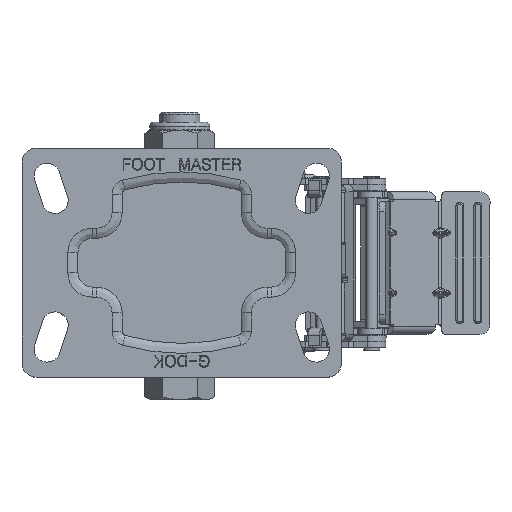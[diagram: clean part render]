
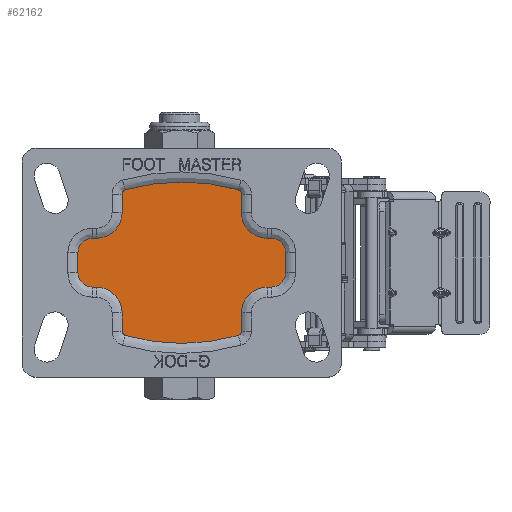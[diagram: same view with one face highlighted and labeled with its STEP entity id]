
A CAD part, top view. The second image highlights one B-rep face of the part: STEP entity #62162.
In plain terms, the highlighted planar face has unit normal (0, 0, 1).
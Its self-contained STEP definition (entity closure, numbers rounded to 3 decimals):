
#60474=CARTESIAN_POINT('',(-51.662,-5.,2.5));
#60475=VERTEX_POINT('',#60474);
#60492=CARTESIAN_POINT('',(-44.5,-12.162,2.5));
#60493=VERTEX_POINT('',#60492);
#60501=CARTESIAN_POINT('',(-44.5,-5.,2.5));
#60502=DIRECTION('',(0.0,0.0,1.0));
#60503=DIRECTION('',(1.0,0.0,0.0));
#60504=AXIS2_PLACEMENT_3D('',#60501,#60502,#60503);
#60505=CIRCLE('',#60504,7.162);
#60506=EDGE_CURVE('',#60475,#60493,#60505,.T.);
#60525=CARTESIAN_POINT('',(-42.5,-12.162,2.5));
#60526=VERTEX_POINT('',#60525);
#60534=CARTESIAN_POINT('',(-44.5,-12.162,2.5));
#60535=DIRECTION('',(1.0,0.0,0.0));
#60536=VECTOR('',#60535,2.);
#60537=LINE('',#60534,#60536);
#60538=EDGE_CURVE('',#60493,#60526,#60537,.T.);
#60588=CARTESIAN_POINT('',(-29.662,-25.,2.5));
#60589=VERTEX_POINT('',#60588);
#60597=CARTESIAN_POINT('',(-42.5,-25.,2.5));
#60598=DIRECTION('',(0.0,0.0,-1.0));
#60599=DIRECTION('',(1.0,0.0,0.0));
#60600=AXIS2_PLACEMENT_3D('',#60597,#60598,#60599);
#60601=CIRCLE('',#60600,12.838);
#60602=EDGE_CURVE('',#60526,#60589,#60601,.T.);
#60621=CARTESIAN_POINT('',(-29.662,-34.164,2.5));
#60622=VERTEX_POINT('',#60621);
#60630=CARTESIAN_POINT('',(-29.662,-25.,2.5));
#60631=DIRECTION('',(0.0,-1.0,0.0));
#60632=VECTOR('',#60631,9.164);
#60633=LINE('',#60630,#60632);
#60634=EDGE_CURVE('',#60589,#60622,#60633,.T.);
#60666=CARTESIAN_POINT('',(-28.092,-36.244,2.5));
#60667=VERTEX_POINT('',#60666);
#60675=CARTESIAN_POINT('',(-27.5,-34.164,2.5));
#60676=DIRECTION('',(0.0,0.0,1.0));
#60677=DIRECTION('',(1.0,0.0,0.0));
#60678=AXIS2_PLACEMENT_3D('',#60675,#60676,#60677);
#60679=CIRCLE('',#60678,2.162);
#60680=EDGE_CURVE('',#60622,#60667,#60679,.T.);
#60712=CARTESIAN_POINT('',(28.092,-36.244,2.5));
#60713=VERTEX_POINT('',#60712);
#60721=CARTESIAN_POINT('',(0.,62.5,2.5));
#60722=DIRECTION('',(0.0,0.0,1.0));
#60723=DIRECTION('',(1.0,0.0,0.0));
#60724=AXIS2_PLACEMENT_3D('',#60721,#60722,#60723);
#60725=CIRCLE('',#60724,102.662);
#60726=EDGE_CURVE('',#60667,#60713,#60725,.T.);
#60758=CARTESIAN_POINT('',(29.662,-34.164,2.5));
#60759=VERTEX_POINT('',#60758);
#60767=CARTESIAN_POINT('',(27.5,-34.164,2.5));
#60768=DIRECTION('',(0.0,0.0,1.0));
#60769=DIRECTION('',(1.0,0.0,0.0));
#60770=AXIS2_PLACEMENT_3D('',#60767,#60768,#60769);
#60771=CIRCLE('',#60770,2.162);
#60772=EDGE_CURVE('',#60713,#60759,#60771,.T.);
#60791=CARTESIAN_POINT('',(29.662,-25.,2.5));
#60792=VERTEX_POINT('',#60791);
#60800=CARTESIAN_POINT('',(29.662,-34.164,2.5));
#60801=DIRECTION('',(0.0,1.0,0.0));
#60802=VECTOR('',#60801,9.164);
#60803=LINE('',#60800,#60802);
#60804=EDGE_CURVE('',#60759,#60792,#60803,.T.);
#60854=CARTESIAN_POINT('',(42.5,-12.162,2.5));
#60855=VERTEX_POINT('',#60854);
#60863=CARTESIAN_POINT('',(42.5,-25.,2.5));
#60864=DIRECTION('',(0.0,0.0,-1.0));
#60865=DIRECTION('',(1.0,0.0,0.0));
#60866=AXIS2_PLACEMENT_3D('',#60863,#60864,#60865);
#60867=CIRCLE('',#60866,12.838);
#60868=EDGE_CURVE('',#60792,#60855,#60867,.T.);
#60887=CARTESIAN_POINT('',(44.5,-12.162,2.5));
#60888=VERTEX_POINT('',#60887);
#60896=CARTESIAN_POINT('',(42.5,-12.162,2.5));
#60897=DIRECTION('',(1.0,0.0,0.0));
#60898=VECTOR('',#60897,2.);
#60899=LINE('',#60896,#60898);
#60900=EDGE_CURVE('',#60855,#60888,#60899,.T.);
#60950=CARTESIAN_POINT('',(51.662,-5.,2.5));
#60951=VERTEX_POINT('',#60950);
#60959=CARTESIAN_POINT('',(44.5,-5.,2.5));
#60960=DIRECTION('',(0.0,0.0,1.0));
#60961=DIRECTION('',(1.0,0.0,0.0));
#60962=AXIS2_PLACEMENT_3D('',#60959,#60960,#60961);
#60963=CIRCLE('',#60962,7.162);
#60964=EDGE_CURVE('',#60888,#60951,#60963,.T.);
#60983=CARTESIAN_POINT('',(51.662,5.,2.5));
#60984=VERTEX_POINT('',#60983);
#60992=CARTESIAN_POINT('',(51.662,-5.,2.5));
#60993=DIRECTION('',(0.0,1.0,0.0));
#60994=VECTOR('',#60993,10.);
#60995=LINE('',#60992,#60994);
#60996=EDGE_CURVE('',#60951,#60984,#60995,.T.);
#61046=CARTESIAN_POINT('',(44.5,12.162,2.5));
#61047=VERTEX_POINT('',#61046);
#61055=CARTESIAN_POINT('',(44.5,5.,2.5));
#61056=DIRECTION('',(0.0,0.0,1.0));
#61057=DIRECTION('',(1.0,0.0,0.0));
#61058=AXIS2_PLACEMENT_3D('',#61055,#61056,#61057);
#61059=CIRCLE('',#61058,7.162);
#61060=EDGE_CURVE('',#60984,#61047,#61059,.T.);
#61079=CARTESIAN_POINT('',(42.5,12.162,2.5));
#61080=VERTEX_POINT('',#61079);
#61088=CARTESIAN_POINT('',(44.5,12.162,2.5));
#61089=DIRECTION('',(-1.0,0.0,0.0));
#61090=VECTOR('',#61089,2.);
#61091=LINE('',#61088,#61090);
#61092=EDGE_CURVE('',#61047,#61080,#61091,.T.);
#61142=CARTESIAN_POINT('',(29.662,25.,2.5));
#61143=VERTEX_POINT('',#61142);
#61151=CARTESIAN_POINT('',(42.5,25.,2.5));
#61152=DIRECTION('',(0.0,0.0,-1.0));
#61153=DIRECTION('',(1.0,0.0,0.0));
#61154=AXIS2_PLACEMENT_3D('',#61151,#61152,#61153);
#61155=CIRCLE('',#61154,12.838);
#61156=EDGE_CURVE('',#61080,#61143,#61155,.T.);
#61175=CARTESIAN_POINT('',(29.662,34.164,2.5));
#61176=VERTEX_POINT('',#61175);
#61184=CARTESIAN_POINT('',(29.662,25.,2.5));
#61185=DIRECTION('',(0.0,1.0,0.0));
#61186=VECTOR('',#61185,9.164);
#61187=LINE('',#61184,#61186);
#61188=EDGE_CURVE('',#61143,#61176,#61187,.T.);
#61220=CARTESIAN_POINT('',(28.092,36.244,2.5));
#61221=VERTEX_POINT('',#61220);
#61229=CARTESIAN_POINT('',(27.5,34.164,2.5));
#61230=DIRECTION('',(0.0,0.0,1.0));
#61231=DIRECTION('',(1.0,0.0,0.0));
#61232=AXIS2_PLACEMENT_3D('',#61229,#61230,#61231);
#61233=CIRCLE('',#61232,2.162);
#61234=EDGE_CURVE('',#61176,#61221,#61233,.T.);
#61266=CARTESIAN_POINT('',(-28.092,36.244,2.5));
#61267=VERTEX_POINT('',#61266);
#61275=CARTESIAN_POINT('',(0.,-62.5,2.5));
#61276=DIRECTION('',(0.0,0.0,1.0));
#61277=DIRECTION('',(1.0,0.0,0.0));
#61278=AXIS2_PLACEMENT_3D('',#61275,#61276,#61277);
#61279=CIRCLE('',#61278,102.662);
#61280=EDGE_CURVE('',#61221,#61267,#61279,.T.);
#61312=CARTESIAN_POINT('',(-29.662,34.164,2.5));
#61313=VERTEX_POINT('',#61312);
#61321=CARTESIAN_POINT('',(-27.5,34.164,2.5));
#61322=DIRECTION('',(0.0,0.0,1.0));
#61323=DIRECTION('',(1.0,0.0,0.0));
#61324=AXIS2_PLACEMENT_3D('',#61321,#61322,#61323);
#61325=CIRCLE('',#61324,2.162);
#61326=EDGE_CURVE('',#61267,#61313,#61325,.T.);
#61345=CARTESIAN_POINT('',(-29.662,25.,2.5));
#61346=VERTEX_POINT('',#61345);
#61354=CARTESIAN_POINT('',(-29.662,34.164,2.5));
#61355=DIRECTION('',(0.0,-1.0,0.0));
#61356=VECTOR('',#61355,9.164);
#61357=LINE('',#61354,#61356);
#61358=EDGE_CURVE('',#61313,#61346,#61357,.T.);
#61408=CARTESIAN_POINT('',(-42.5,12.162,2.5));
#61409=VERTEX_POINT('',#61408);
#61417=CARTESIAN_POINT('',(-42.5,25.,2.5));
#61418=DIRECTION('',(0.0,0.0,-1.0));
#61419=DIRECTION('',(1.0,0.0,0.0));
#61420=AXIS2_PLACEMENT_3D('',#61417,#61418,#61419);
#61421=CIRCLE('',#61420,12.838);
#61422=EDGE_CURVE('',#61346,#61409,#61421,.T.);
#61441=CARTESIAN_POINT('',(-44.5,12.162,2.5));
#61442=VERTEX_POINT('',#61441);
#61450=CARTESIAN_POINT('',(-42.5,12.162,2.5));
#61451=DIRECTION('',(-1.0,0.0,0.0));
#61452=VECTOR('',#61451,2.);
#61453=LINE('',#61450,#61452);
#61454=EDGE_CURVE('',#61409,#61442,#61453,.T.);
#61504=CARTESIAN_POINT('',(-51.662,5.,2.5));
#61505=VERTEX_POINT('',#61504);
#61513=CARTESIAN_POINT('',(-44.5,5.,2.5));
#61514=DIRECTION('',(0.0,0.0,1.0));
#61515=DIRECTION('',(1.0,0.0,0.0));
#61516=AXIS2_PLACEMENT_3D('',#61513,#61514,#61515);
#61517=CIRCLE('',#61516,7.162);
#61518=EDGE_CURVE('',#61442,#61505,#61517,.T.);
#61536=CARTESIAN_POINT('',(-51.662,5.,2.5));
#61537=DIRECTION('',(0.0,-1.0,0.0));
#61538=VECTOR('',#61537,10.0);
#61539=LINE('',#61536,#61538);
#61540=EDGE_CURVE('',#61505,#60475,#61539,.T.);
#62131=CARTESIAN_POINT('',(0.,0.,2.5));
#62132=DIRECTION('',(0.0,0.0,1.0));
#62133=DIRECTION('',(1.0,0.0,0.0));
#62134=AXIS2_PLACEMENT_3D('',#62131,#62132,#62133);
#62135=PLANE('',#62134);
#62136=ORIENTED_EDGE('',*,*,#60680,.T.);
#62137=ORIENTED_EDGE('',*,*,#60726,.T.);
#62138=ORIENTED_EDGE('',*,*,#60772,.T.);
#62139=ORIENTED_EDGE('',*,*,#60804,.T.);
#62140=ORIENTED_EDGE('',*,*,#60868,.T.);
#62141=ORIENTED_EDGE('',*,*,#60900,.T.);
#62142=ORIENTED_EDGE('',*,*,#60964,.T.);
#62143=ORIENTED_EDGE('',*,*,#60996,.T.);
#62144=ORIENTED_EDGE('',*,*,#61060,.T.);
#62145=ORIENTED_EDGE('',*,*,#61092,.T.);
#62146=ORIENTED_EDGE('',*,*,#61156,.T.);
#62147=ORIENTED_EDGE('',*,*,#61188,.T.);
#62148=ORIENTED_EDGE('',*,*,#61234,.T.);
#62149=ORIENTED_EDGE('',*,*,#61280,.T.);
#62150=ORIENTED_EDGE('',*,*,#61326,.T.);
#62151=ORIENTED_EDGE('',*,*,#61358,.T.);
#62152=ORIENTED_EDGE('',*,*,#61422,.T.);
#62153=ORIENTED_EDGE('',*,*,#61454,.T.);
#62154=ORIENTED_EDGE('',*,*,#61518,.T.);
#62155=ORIENTED_EDGE('',*,*,#61540,.T.);
#62156=ORIENTED_EDGE('',*,*,#60506,.T.);
#62157=ORIENTED_EDGE('',*,*,#60538,.T.);
#62158=ORIENTED_EDGE('',*,*,#60602,.T.);
#62159=ORIENTED_EDGE('',*,*,#60634,.T.);
#62160=EDGE_LOOP('',(#62136,#62137,#62138,#62139,#62140,#62141,#62142,#62143,#62144,#62145,#62146,#62147,#62148,#62149,#62150,#62151,#62152,#62153,#62154,#62155,#62156,#62157,#62158,#62159));
#62161=FACE_OUTER_BOUND('',#62160,.T.);
#62162=ADVANCED_FACE('',(#62161),#62135,.T.);
